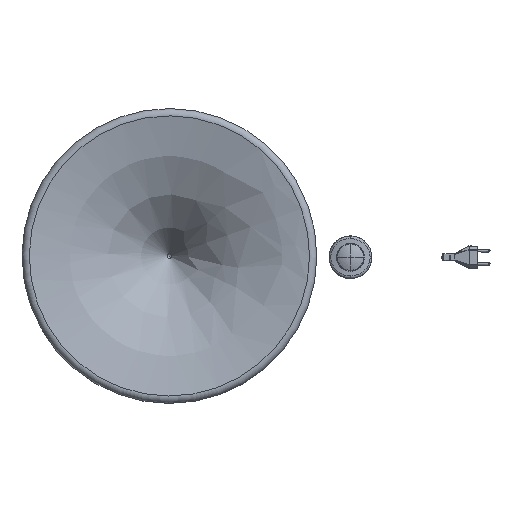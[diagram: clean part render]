
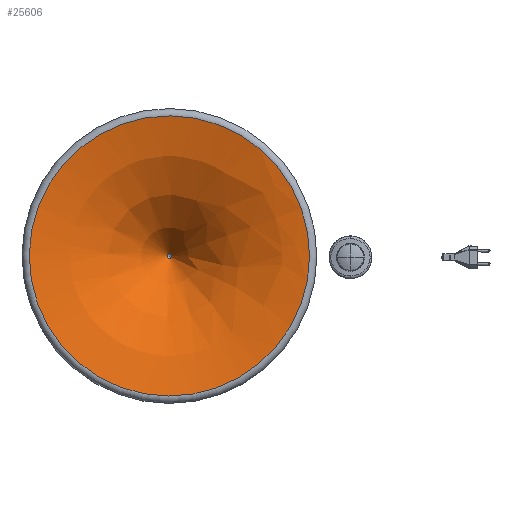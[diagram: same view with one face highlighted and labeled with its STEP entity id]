
A CAD part, top view. The second image highlights one B-rep face of the part: STEP entity #25606.
In plain terms, the highlighted free-form (B-spline) face has degree [2, 2] with [3, 9] control points.
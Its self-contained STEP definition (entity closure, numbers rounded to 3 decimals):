
#197=(
BOUNDED_SURFACE()
B_SPLINE_SURFACE(2,2,((#46537,#46538,#46539,#46540,#46541,#46542,#46543,
#46544,#46545),(#46546,#46547,#46548,#46549,#46550,#46551,#46552,#46553,
#46554),(#46555,#46556,#46557,#46558,#46559,#46560,#46561,#46562,#46563)),
 .UNSPECIFIED.,.F.,.T.,.F.)
B_SPLINE_SURFACE_WITH_KNOTS((3,3),(3,2,2,2,3),(1.687,2.562),
(-3.142,-1.571,0.,1.571,3.142),
 .UNSPECIFIED.)
GEOMETRIC_REPRESENTATION_ITEM()
RATIONAL_B_SPLINE_SURFACE(((1.,0.707,1.,0.707,1.,
0.707,1.,0.707,1.),(0.906,0.64,
0.906,0.64,0.906,0.64,
0.906,0.64,0.906),(1.,0.707,
1.,0.707,1.,0.707,1.,0.707,1.)))
REPRESENTATION_ITEM('')
SURFACE()
);
#2344=CIRCLE('',#28787,213.842);
#2346=CIRCLE('',#28789,3.347);
#2347=CIRCLE('',#28790,292.);
#3606=FACE_OUTER_BOUND('',#5014,.T.);
#5014=EDGE_LOOP('',(#21964,#21965,#21966,#21967));
#11556=VERTEX_POINT('',#46534);
#11557=VERTEX_POINT('',#46564);
#15060=EDGE_CURVE('',#11556,#11556,#2344,.T.);
#15062=EDGE_CURVE('',#11557,#11557,#2346,.T.);
#15063=EDGE_CURVE('',#11557,#11556,#2347,.T.);
#21964=ORIENTED_EDGE('',*,*,#15062,.F.);
#21965=ORIENTED_EDGE('',*,*,#15063,.T.);
#21966=ORIENTED_EDGE('',*,*,#15060,.T.);
#21967=ORIENTED_EDGE('',*,*,#15063,.F.);
#25606=ADVANCED_FACE('',(#3606),#197,.F.);
#28787=AXIS2_PLACEMENT_3D('',#46535,#35788,#35789);
#28789=AXIS2_PLACEMENT_3D('',#46565,#35792,#35793);
#28790=AXIS2_PLACEMENT_3D('',#46566,#35794,#35795);
#35788=DIRECTION('center_axis',(0.,0.,1.));
#35789=DIRECTION('ref_axis',(1.,0.,0.));
#35792=DIRECTION('center_axis',(0.,0.,1.));
#35793=DIRECTION('ref_axis',(1.,0.,0.));
#35794=DIRECTION('center_axis',(0.,-1.,0.));
#35795=DIRECTION('ref_axis',(-1.,0.,0.));
#46534=CARTESIAN_POINT('',(-213.842,0.,239.933));
#46535=CARTESIAN_POINT('Origin',(0.,0.,239.933));
#46537=CARTESIAN_POINT('Ctrl Pts',(-213.842,0.,239.933));
#46538=CARTESIAN_POINT('Ctrl Pts',(-213.842,-213.842,
239.933));
#46539=CARTESIAN_POINT('Ctrl Pts',(0.,-213.842,239.933));
#46540=CARTESIAN_POINT('Ctrl Pts',(213.842,-213.842,239.933));
#46541=CARTESIAN_POINT('Ctrl Pts',(213.842,0.,239.933));
#46542=CARTESIAN_POINT('Ctrl Pts',(213.842,213.842,239.933));
#46543=CARTESIAN_POINT('Ctrl Pts',(0.,213.842,239.933));
#46544=CARTESIAN_POINT('Ctrl Pts',(-213.842,213.842,239.933));
#46545=CARTESIAN_POINT('Ctrl Pts',(-213.842,0.,239.933));
#46546=CARTESIAN_POINT('Ctrl Pts',(-78.157,0.,224.108));
#46547=CARTESIAN_POINT('Ctrl Pts',(-78.157,-78.157,
224.108));
#46548=CARTESIAN_POINT('Ctrl Pts',(0.,-78.157,224.108));
#46549=CARTESIAN_POINT('Ctrl Pts',(78.157,-78.157,224.108));
#46550=CARTESIAN_POINT('Ctrl Pts',(78.157,0.,224.108));
#46551=CARTESIAN_POINT('Ctrl Pts',(78.157,78.157,224.108));
#46552=CARTESIAN_POINT('Ctrl Pts',(0.,78.157,224.108));
#46553=CARTESIAN_POINT('Ctrl Pts',(-78.157,78.157,224.108));
#46554=CARTESIAN_POINT('Ctrl Pts',(-78.157,0.,224.108));
#46555=CARTESIAN_POINT('Ctrl Pts',(-3.347,0.,109.809));
#46556=CARTESIAN_POINT('Ctrl Pts',(-3.347,-3.347,
109.809));
#46557=CARTESIAN_POINT('Ctrl Pts',(0.,-3.347,109.809));
#46558=CARTESIAN_POINT('Ctrl Pts',(3.347,-3.347,109.809));
#46559=CARTESIAN_POINT('Ctrl Pts',(3.347,0.,109.809));
#46560=CARTESIAN_POINT('Ctrl Pts',(3.347,3.347,109.809));
#46561=CARTESIAN_POINT('Ctrl Pts',(0.,3.347,109.809));
#46562=CARTESIAN_POINT('Ctrl Pts',(-3.347,3.347,109.809));
#46563=CARTESIAN_POINT('Ctrl Pts',(-3.347,0.,109.809));
#46564=CARTESIAN_POINT('',(-3.347,0.,109.809));
#46565=CARTESIAN_POINT('Origin',(0.,0.,109.809));
#46566=CARTESIAN_POINT('Origin',(-247.667,0.,
-50.101));
